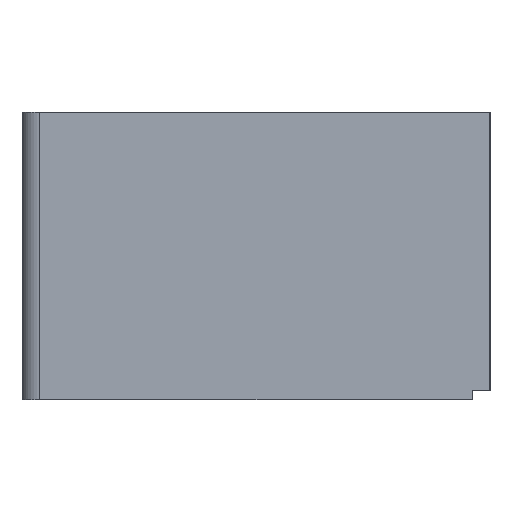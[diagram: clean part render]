
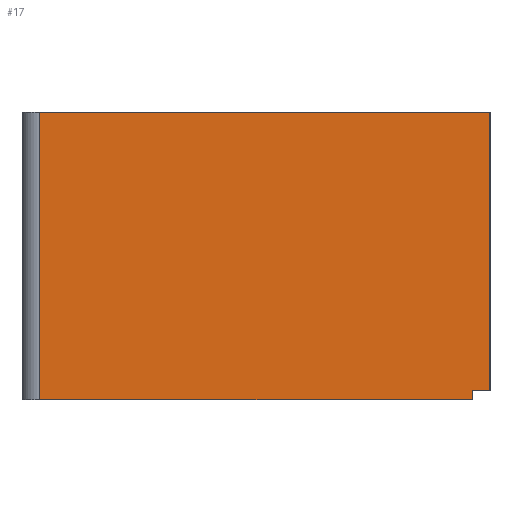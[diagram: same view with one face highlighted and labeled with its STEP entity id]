
A CAD part, left-side view. The second image highlights one B-rep face of the part: STEP entity #17.
In plain terms, the highlighted planar face has unit normal (-1, 0, 0).
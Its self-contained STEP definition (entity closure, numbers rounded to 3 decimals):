
#17 = ADVANCED_FACE('',(#18),#32,.F.);
#18 = FACE_BOUND('',#19,.F.);
#19 = EDGE_LOOP('',(#20,#55,#81,#107,#133,#161));
#20 = ORIENTED_EDGE('',*,*,#21,.F.);
#21 = EDGE_CURVE('',#22,#24,#26,.T.);
#22 = VERTEX_POINT('',#23);
#23 = CARTESIAN_POINT('',(0.,200.,49.2));
#24 = VERTEX_POINT('',#25);
#25 = CARTESIAN_POINT('',(0.,277.,49.2));
#26 = SURFACE_CURVE('',#27,(#31,#43),.PCURVE_S1.);
#27 = LINE('',#28,#29);
#28 = CARTESIAN_POINT('',(0.,0.,49.2));
#29 = VECTOR('',#30,1.);
#30 = DIRECTION('',(0.,1.,0.));
#31 = PCURVE('',#32,#37);
#32 = PLANE('',#33);
#33 = AXIS2_PLACEMENT_3D('',#34,#35,#36);
#34 = CARTESIAN_POINT('',(0.,0.,0.));
#35 = DIRECTION('',(1.,0.,0.));
#36 = DIRECTION('',(0.,0.,1.));
#37 = DEFINITIONAL_REPRESENTATION('',(#38),#42);
#38 = LINE('',#39,#40);
#39 = CARTESIAN_POINT('',(49.2,0.));
#40 = VECTOR('',#41,1.);
#41 = DIRECTION('',(0.,-1.));
#42 = ( GEOMETRIC_REPRESENTATION_CONTEXT(2) 
PARAMETRIC_REPRESENTATION_CONTEXT() REPRESENTATION_CONTEXT('2D SPACE',''
  ) );
#43 = PCURVE('',#44,#49);
#44 = PLANE('',#45);
#45 = AXIS2_PLACEMENT_3D('',#46,#47,#48);
#46 = CARTESIAN_POINT('',(0.,0.,49.2));
#47 = DIRECTION('',(0.,0.,1.));
#48 = DIRECTION('',(1.,0.,0.));
#49 = DEFINITIONAL_REPRESENTATION('',(#50),#54);
#50 = LINE('',#51,#52);
#51 = CARTESIAN_POINT('',(0.,0.));
#52 = VECTOR('',#53,1.);
#53 = DIRECTION('',(0.,1.));
#54 = ( GEOMETRIC_REPRESENTATION_CONTEXT(2) 
PARAMETRIC_REPRESENTATION_CONTEXT() REPRESENTATION_CONTEXT('2D SPACE',''
  ) );
#55 = ORIENTED_EDGE('',*,*,#56,.F.);
#56 = EDGE_CURVE('',#57,#22,#59,.T.);
#57 = VERTEX_POINT('',#58);
#58 = CARTESIAN_POINT('',(0.,200.,1.6));
#59 = SURFACE_CURVE('',#60,(#64,#70),.PCURVE_S1.);
#60 = LINE('',#61,#62);
#61 = CARTESIAN_POINT('',(0.,200.,0.));
#62 = VECTOR('',#63,1.);
#63 = DIRECTION('',(0.,0.,1.));
#64 = PCURVE('',#32,#65);
#65 = DEFINITIONAL_REPRESENTATION('',(#66),#69);
#66 = B_SPLINE_CURVE_WITH_KNOTS('',1,(#67,#68),.UNSPECIFIED.,.F.,.F.,(2,
    2),(0.,49.2),.PIECEWISE_BEZIER_KNOTS.);
#67 = CARTESIAN_POINT('',(0.,-200.));
#68 = CARTESIAN_POINT('',(49.2,-200.));
#69 = ( GEOMETRIC_REPRESENTATION_CONTEXT(2) 
PARAMETRIC_REPRESENTATION_CONTEXT() REPRESENTATION_CONTEXT('2D SPACE',''
  ) );
#70 = PCURVE('',#71,#76);
#71 = PLANE('',#72);
#72 = AXIS2_PLACEMENT_3D('',#73,#74,#75);
#73 = CARTESIAN_POINT('',(-1.,200.,0.));
#74 = DIRECTION('',(0.,1.,0.));
#75 = DIRECTION('',(0.,0.,1.));
#76 = DEFINITIONAL_REPRESENTATION('',(#77),#80);
#77 = B_SPLINE_CURVE_WITH_KNOTS('',1,(#78,#79),.UNSPECIFIED.,.F.,.F.,(2,
    2),(0.,49.2),.PIECEWISE_BEZIER_KNOTS.);
#78 = CARTESIAN_POINT('',(0.,1.));
#79 = CARTESIAN_POINT('',(49.2,1.));
#80 = ( GEOMETRIC_REPRESENTATION_CONTEXT(2) 
PARAMETRIC_REPRESENTATION_CONTEXT() REPRESENTATION_CONTEXT('2D SPACE',''
  ) );
#81 = ORIENTED_EDGE('',*,*,#82,.F.);
#82 = EDGE_CURVE('',#83,#57,#85,.T.);
#83 = VERTEX_POINT('',#84);
#84 = CARTESIAN_POINT('',(0.,203.,1.6));
#85 = SURFACE_CURVE('',#86,(#90,#96),.PCURVE_S1.);
#86 = LINE('',#87,#88);
#87 = CARTESIAN_POINT('',(0.,99.5,1.6));
#88 = VECTOR('',#89,1.);
#89 = DIRECTION('',(0.,-1.,0.));
#90 = PCURVE('',#32,#91);
#91 = DEFINITIONAL_REPRESENTATION('',(#92),#95);
#92 = B_SPLINE_CURVE_WITH_KNOTS('',1,(#93,#94),.UNSPECIFIED.,.F.,.F.,(2,
    2),(-103.5,-100.5),.PIECEWISE_BEZIER_KNOTS.);
#93 = CARTESIAN_POINT('',(1.6,-203.));
#94 = CARTESIAN_POINT('',(1.6,-200.));
#95 = ( GEOMETRIC_REPRESENTATION_CONTEXT(2) 
PARAMETRIC_REPRESENTATION_CONTEXT() REPRESENTATION_CONTEXT('2D SPACE',''
  ) );
#96 = PCURVE('',#97,#102);
#97 = PLANE('',#98);
#98 = AXIS2_PLACEMENT_3D('',#99,#100,#101);
#99 = CARTESIAN_POINT('',(-1.,199.,1.6));
#100 = DIRECTION('',(0.,0.,1.));
#101 = DIRECTION('',(1.,0.,0.));
#102 = DEFINITIONAL_REPRESENTATION('',(#103),#106);
#103 = B_SPLINE_CURVE_WITH_KNOTS('',1,(#104,#105),.UNSPECIFIED.,.F.,.F.,
  (2,2),(-103.5,-100.5),.PIECEWISE_BEZIER_KNOTS.);
#104 = CARTESIAN_POINT('',(1.,4.));
#105 = CARTESIAN_POINT('',(1.,1.));
#106 = ( GEOMETRIC_REPRESENTATION_CONTEXT(2) 
PARAMETRIC_REPRESENTATION_CONTEXT() REPRESENTATION_CONTEXT('2D SPACE',''
  ) );
#107 = ORIENTED_EDGE('',*,*,#108,.F.);
#108 = EDGE_CURVE('',#109,#83,#111,.T.);
#109 = VERTEX_POINT('',#110);
#110 = CARTESIAN_POINT('',(0.,203.,0.));
#111 = SURFACE_CURVE('',#112,(#116,#122),.PCURVE_S1.);
#112 = LINE('',#113,#114);
#113 = CARTESIAN_POINT('',(0.,203.,-0.5));
#114 = VECTOR('',#115,1.);
#115 = DIRECTION('',(0.,0.,1.));
#116 = PCURVE('',#32,#117);
#117 = DEFINITIONAL_REPRESENTATION('',(#118),#121);
#118 = B_SPLINE_CURVE_WITH_KNOTS('',1,(#119,#120),.UNSPECIFIED.,.F.,.F.,
  (2,2),(0.5,2.1),.PIECEWISE_BEZIER_KNOTS.);
#119 = CARTESIAN_POINT('',(0.,-203.));
#120 = CARTESIAN_POINT('',(1.6,-203.));
#121 = ( GEOMETRIC_REPRESENTATION_CONTEXT(2) 
PARAMETRIC_REPRESENTATION_CONTEXT() REPRESENTATION_CONTEXT('2D SPACE',''
  ) );
#122 = PCURVE('',#123,#128);
#123 = PLANE('',#124);
#124 = AXIS2_PLACEMENT_3D('',#125,#126,#127);
#125 = CARTESIAN_POINT('',(-1.,203.,-1.));
#126 = DIRECTION('',(0.,1.,0.));
#127 = DIRECTION('',(0.,0.,1.));
#128 = DEFINITIONAL_REPRESENTATION('',(#129),#132);
#129 = B_SPLINE_CURVE_WITH_KNOTS('',1,(#130,#131),.UNSPECIFIED.,.F.,.F.,
  (2,2),(0.5,2.1),.PIECEWISE_BEZIER_KNOTS.);
#130 = CARTESIAN_POINT('',(1.,1.));
#131 = CARTESIAN_POINT('',(2.6,1.));
#132 = ( GEOMETRIC_REPRESENTATION_CONTEXT(2) 
PARAMETRIC_REPRESENTATION_CONTEXT() REPRESENTATION_CONTEXT('2D SPACE',''
  ) );
#133 = ORIENTED_EDGE('',*,*,#134,.T.);
#134 = EDGE_CURVE('',#109,#135,#137,.T.);
#135 = VERTEX_POINT('',#136);
#136 = CARTESIAN_POINT('',(0.,277.,0.));
#137 = SURFACE_CURVE('',#138,(#142,#149),.PCURVE_S1.);
#138 = LINE('',#139,#140);
#139 = CARTESIAN_POINT('',(0.,0.,0.));
#140 = VECTOR('',#141,1.);
#141 = DIRECTION('',(0.,1.,0.));
#142 = PCURVE('',#32,#143);
#143 = DEFINITIONAL_REPRESENTATION('',(#144),#148);
#144 = LINE('',#145,#146);
#145 = CARTESIAN_POINT('',(0.,0.));
#146 = VECTOR('',#147,1.);
#147 = DIRECTION('',(0.,-1.));
#148 = ( GEOMETRIC_REPRESENTATION_CONTEXT(2) 
PARAMETRIC_REPRESENTATION_CONTEXT() REPRESENTATION_CONTEXT('2D SPACE',''
  ) );
#149 = PCURVE('',#150,#155);
#150 = PLANE('',#151);
#151 = AXIS2_PLACEMENT_3D('',#152,#153,#154);
#152 = CARTESIAN_POINT('',(0.,0.,0.));
#153 = DIRECTION('',(0.,0.,1.));
#154 = DIRECTION('',(1.,0.,0.));
#155 = DEFINITIONAL_REPRESENTATION('',(#156),#160);
#156 = LINE('',#157,#158);
#157 = CARTESIAN_POINT('',(0.,0.));
#158 = VECTOR('',#159,1.);
#159 = DIRECTION('',(0.,1.));
#160 = ( GEOMETRIC_REPRESENTATION_CONTEXT(2) 
PARAMETRIC_REPRESENTATION_CONTEXT() REPRESENTATION_CONTEXT('2D SPACE',''
  ) );
#161 = ORIENTED_EDGE('',*,*,#162,.T.);
#162 = EDGE_CURVE('',#135,#24,#163,.T.);
#163 = SURFACE_CURVE('',#164,(#168,#175),.PCURVE_S1.);
#164 = LINE('',#165,#166);
#165 = CARTESIAN_POINT('',(0.,277.,0.));
#166 = VECTOR('',#167,1.);
#167 = DIRECTION('',(0.,0.,1.));
#168 = PCURVE('',#32,#169);
#169 = DEFINITIONAL_REPRESENTATION('',(#170),#174);
#170 = LINE('',#171,#172);
#171 = CARTESIAN_POINT('',(0.,-277.));
#172 = VECTOR('',#173,1.);
#173 = DIRECTION('',(1.,0.));
#174 = ( GEOMETRIC_REPRESENTATION_CONTEXT(2) 
PARAMETRIC_REPRESENTATION_CONTEXT() REPRESENTATION_CONTEXT('2D SPACE',''
  ) );
#175 = PCURVE('',#176,#181);
#176 = CYLINDRICAL_SURFACE('',#177,3.);
#177 = AXIS2_PLACEMENT_3D('',#178,#179,#180);
#178 = CARTESIAN_POINT('',(3.,277.,0.));
#179 = DIRECTION('',(0.,0.,1.));
#180 = DIRECTION('',(-1.,-0.,0.));
#181 = DEFINITIONAL_REPRESENTATION('',(#182),#186);
#182 = LINE('',#183,#184);
#183 = CARTESIAN_POINT('',(-0.,0.));
#184 = VECTOR('',#185,1.);
#185 = DIRECTION('',(-0.,1.));
#186 = ( GEOMETRIC_REPRESENTATION_CONTEXT(2) 
PARAMETRIC_REPRESENTATION_CONTEXT() REPRESENTATION_CONTEXT('2D SPACE',''
  ) );
